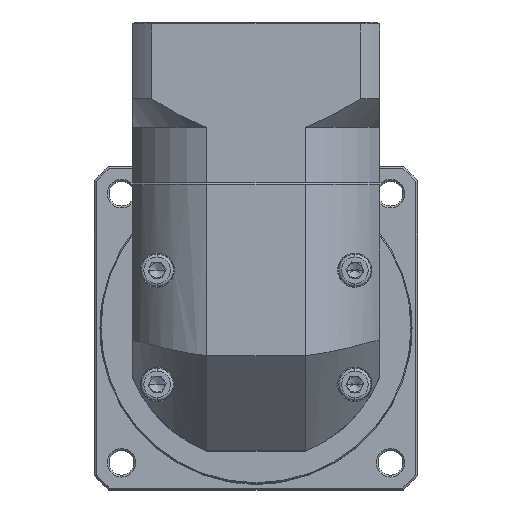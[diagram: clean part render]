
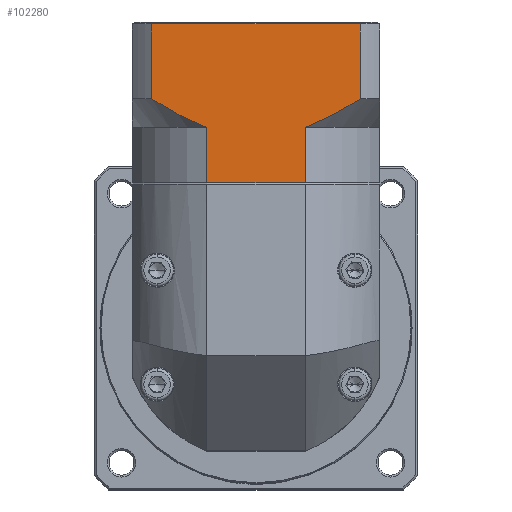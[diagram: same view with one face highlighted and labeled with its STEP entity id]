
A CAD part, top view. The second image highlights one B-rep face of the part: STEP entity #102280.
In plain terms, the highlighted planar face has unit normal (0, 0, 1).
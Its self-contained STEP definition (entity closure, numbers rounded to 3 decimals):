
#398 = CARTESIAN_POINT ( 'NONE',  ( -54.311, 66.712, 37.031 ) ) ;
#2945 = EDGE_CURVE ( 'NONE', #89807, #123767, #43039, .T. ) ;
#3984 = ORIENTED_EDGE ( 'NONE', *, *, #29373, .F. ) ;
#5379 = DIRECTION ( 'NONE',  ( 0., -1., 0. ) ) ;
#7003 = CARTESIAN_POINT ( 'NONE',  ( -82.829, 82.154, 37.031 ) ) ;
#7894 = CARTESIAN_POINT ( 'NONE',  ( -93.549, 87.978, 37.031 ) ) ;
#8464 = VECTOR ( 'NONE', #129988, 1000. ) ;
#10607 = PLANE ( 'NONE',  #58392 ) ;
#15083 = VERTEX_POINT ( 'NONE', #21200 ) ;
#19328 = CARTESIAN_POINT ( 'NONE',  ( -54.311, 81.212, 37.031 ) ) ;
#20217 = DIRECTION ( 'NONE',  ( 0., 1., 0. ) ) ;
#20972 = CARTESIAN_POINT ( 'NONE',  ( -99.801, 108.412, 37.031 ) ) ;
#21200 = CARTESIAN_POINT ( 'NONE',  ( -80.291, 81.212, 37.031 ) ) ;
#24248 = EDGE_CURVE ( 'NONE', #89807, #15083, #53576, .T. ) ;
#24336 = ORIENTED_EDGE ( 'NONE', *, *, #119658, .T. ) ;
#25838 = LINE ( 'NONE', #131348, #94806 ) ;
#27293 = CARTESIAN_POINT ( 'NONE',  ( -39.915, 81.212, 37.031 ) ) ;
#28931 = B_SPLINE_CURVE_WITH_KNOTS ( 'NONE', 3,
 ( #19328, #101911, #101447, #81276, #71664, #113845, #50575, #39051, #123475, #103262 ),
 .UNSPECIFIED., .F., .F.,
 ( 4, 2, 2, 2, 4 ),
 ( 0.101, 0.103, 0.105, 0.109, 0.117 ),
 .UNSPECIFIED. ) ;
#29373 = EDGE_CURVE ( 'NONE', #120593, #43848, #109888, .T. ) ;
#32073 = DIRECTION ( 'NONE',  ( 0., 0., -1. ) ) ;
#32489 = CARTESIAN_POINT ( 'NONE',  ( -39.915, 88.712, 37.031 ) ) ;
#33132 = VECTOR ( 'NONE', #104062, 1000. ) ;
#33650 = ORIENTED_EDGE ( 'NONE', *, *, #104652, .T. ) ;
#39051 = CARTESIAN_POINT ( 'NONE',  ( -44.497, 85.862, 37.031 ) ) ;
#40029 = VECTOR ( 'NONE', #42073, 1000. ) ;
#41111 = EDGE_CURVE ( 'NONE', #108259, #79415, #25838, .T. ) ;
#42073 = DIRECTION ( 'NONE',  ( -1., 0., 0. ) ) ;
#43039 = LINE ( 'NONE', #43076, #33132 ) ;
#43076 = CARTESIAN_POINT ( 'NONE',  ( -94.687, 81.212, 37.031 ) ) ;
#43848 = VERTEX_POINT ( 'NONE', #32489 ) ;
#44111 = CARTESIAN_POINT ( 'NONE',  ( -94.687, 88.712, 37.031 ) ) ;
#49198 = CARTESIAN_POINT ( 'NONE',  ( -94.687, 88.712, 37.031 ) ) ;
#49655 = CARTESIAN_POINT ( 'NONE',  ( -92.398, 87.263, 37.031 ) ) ;
#50575 = CARTESIAN_POINT ( 'NONE',  ( -48.078, 83.957, 37.031 ) ) ;
#53576 = B_SPLINE_CURVE_WITH_KNOTS ( 'NONE', 3,
 ( #49198, #7894, #49655, #69861, #80824, #70313, #7003, #91374 ),
 .UNSPECIFIED., .F., .F.,
 ( 4, 2, 2, 4 ),
 ( 0.058, 0.062, 0.066, 0.074 ),
 .UNSPECIFIED. ) ;
#55264 = DIRECTION ( 'NONE',  ( 1., 0., 0. ) ) ;
#58392 = AXIS2_PLACEMENT_3D ( 'NONE', #116012, #32073, #20217 ) ;
#67988 = LINE ( 'NONE', #20972, #40029 ) ;
#69861 = CARTESIAN_POINT ( 'NONE',  ( -90.063, 85.879, 37.031 ) ) ;
#69863 = DIRECTION ( 'NONE',  ( 0., -1., 0. ) ) ;
#70313 = CARTESIAN_POINT ( 'NONE',  ( -85.281, 83.298, 37.031 ) ) ;
#71241 = CARTESIAN_POINT ( 'NONE',  ( -94.687, 108.412, 37.031 ) ) ;
#71664 = CARTESIAN_POINT ( 'NONE',  ( -51.144, 82.502, 37.031 ) ) ;
#72927 = EDGE_LOOP ( 'NONE', ( #3984, #128800, #119372, #121230, #98002, #24336, #124325, #33650 ) ) ;
#75363 = VECTOR ( 'NONE', #5379, 1000. ) ;
#75386 = CARTESIAN_POINT ( 'NONE',  ( -99.801, 66.712, 37.031 ) ) ;
#78094 = CARTESIAN_POINT ( 'NONE',  ( -80.291, 81.212, 37.031 ) ) ;
#79415 = VERTEX_POINT ( 'NONE', #398 ) ;
#80824 = CARTESIAN_POINT ( 'NONE',  ( -88.877, 85.208, 37.031 ) ) ;
#81276 = CARTESIAN_POINT ( 'NONE',  ( -51.768, 82.228, 37.031 ) ) ;
#89807 = VERTEX_POINT ( 'NONE', #44111 ) ;
#91374 = CARTESIAN_POINT ( 'NONE',  ( -80.291, 81.212, 37.031 ) ) ;
#93886 = VECTOR ( 'NONE', #55264, 1000. ) ;
#94806 = VECTOR ( 'NONE', #69863, 1000. ) ;
#95477 = LINE ( 'NONE', #78094, #8464 ) ;
#97796 = FACE_OUTER_BOUND ( 'NONE', #72927, .T. ) ;
#98002 = ORIENTED_EDGE ( 'NONE', *, *, #119671, .F. ) ;
#101447 = CARTESIAN_POINT ( 'NONE',  ( -53.029, 81.702, 37.031 ) ) ;
#101911 = CARTESIAN_POINT ( 'NONE',  ( -53.668, 81.45, 37.031 ) ) ;
#102000 = LINE ( 'NONE', #75386, #93886 ) ;
#102280 = ADVANCED_FACE ( 'NONE', ( #97796 ), #10607, .F. ) ;
#103262 = CARTESIAN_POINT ( 'NONE',  ( -39.915, 88.712, 37.031 ) ) ;
#104062 = DIRECTION ( 'NONE',  ( 0., 1., 0. ) ) ;
#104652 = EDGE_CURVE ( 'NONE', #108259, #43848, #28931, .T. ) ;
#108259 = VERTEX_POINT ( 'NONE', #120311 ) ;
#108474 = EDGE_CURVE ( 'NONE', #120593, #123767, #67988, .T. ) ;
#109888 = LINE ( 'NONE', #27293, #75363 ) ;
#113845 = CARTESIAN_POINT ( 'NONE',  ( -49.29, 83.352, 37.031 ) ) ;
#116012 = CARTESIAN_POINT ( 'NONE',  ( -99.801, 108.912, 37.031 ) ) ;
#117792 = CARTESIAN_POINT ( 'NONE',  ( -39.915, 108.412, 37.031 ) ) ;
#118214 = CARTESIAN_POINT ( 'NONE',  ( -80.291, 66.712, 37.031 ) ) ;
#119372 = ORIENTED_EDGE ( 'NONE', *, *, #2945, .F. ) ;
#119658 = EDGE_CURVE ( 'NONE', #132392, #79415, #102000, .T. ) ;
#119671 = EDGE_CURVE ( 'NONE', #132392, #15083, #95477, .T. ) ;
#120311 = CARTESIAN_POINT ( 'NONE',  ( -54.311, 81.212, 37.031 ) ) ;
#120593 = VERTEX_POINT ( 'NONE', #117792 ) ;
#121230 = ORIENTED_EDGE ( 'NONE', *, *, #24248, .T. ) ;
#123475 = CARTESIAN_POINT ( 'NONE',  ( -42.183, 87.25, 37.031 ) ) ;
#123767 = VERTEX_POINT ( 'NONE', #71241 ) ;
#124325 = ORIENTED_EDGE ( 'NONE', *, *, #41111, .F. ) ;
#128800 = ORIENTED_EDGE ( 'NONE', *, *, #108474, .T. ) ;
#129988 = DIRECTION ( 'NONE',  ( 0., 1., 0. ) ) ;
#131348 = CARTESIAN_POINT ( 'NONE',  ( -54.311, 81.212, 37.031 ) ) ;
#132392 = VERTEX_POINT ( 'NONE', #118214 ) ;
